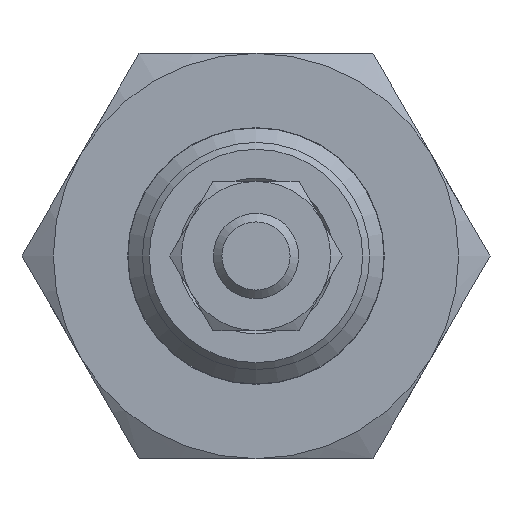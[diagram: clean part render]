
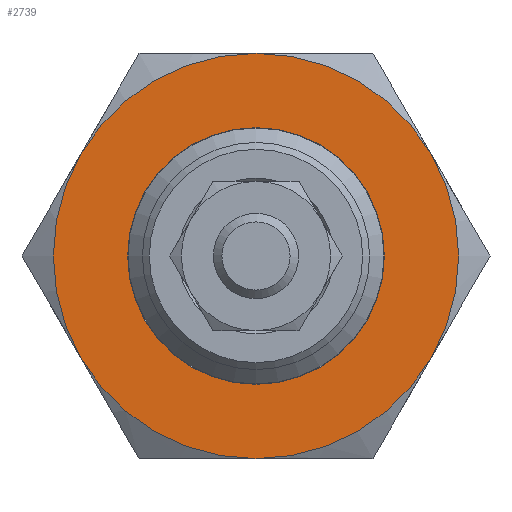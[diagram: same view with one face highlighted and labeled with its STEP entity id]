
A CAD part, front view. The second image highlights one B-rep face of the part: STEP entity #2739.
In plain terms, the highlighted planar face has unit normal (0, -1, 0) as drawn and (1, 0, 0) by its records, which use the part's own axes.
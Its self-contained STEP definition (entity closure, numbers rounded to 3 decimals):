
#154=PLANE('',#3005);
#309=CIRCLE('',#2988,9.5);
#310=CIRCLE('',#2990,9.5);
#311=CIRCLE('',#2992,9.5);
#312=CIRCLE('',#2994,9.5);
#313=CIRCLE('',#2996,9.5);
#314=CIRCLE('',#2998,9.5);
#315=CIRCLE('',#3006,6.016);
#673=ORIENTED_EDGE('',*,*,#951,.T.);
#674=ORIENTED_EDGE('',*,*,#949,.T.);
#675=ORIENTED_EDGE('',*,*,#946,.T.);
#676=ORIENTED_EDGE('',*,*,#945,.T.);
#677=ORIENTED_EDGE('',*,*,#947,.T.);
#678=ORIENTED_EDGE('',*,*,#948,.T.);
#679=ORIENTED_EDGE('',*,*,#950,.T.);
#945=EDGE_CURVE('',#1125,#1132,#309,.T.);
#946=EDGE_CURVE('',#1122,#1125,#310,.T.);
#947=EDGE_CURVE('',#1132,#1130,#311,.T.);
#948=EDGE_CURVE('',#1130,#1127,#312,.T.);
#949=EDGE_CURVE('',#1117,#1122,#313,.T.);
#950=EDGE_CURVE('',#1127,#1117,#314,.T.);
#951=EDGE_CURVE('',#1133,#1133,#315,.F.);
#1117=VERTEX_POINT('',#4001);
#1122=VERTEX_POINT('',#4021);
#1125=VERTEX_POINT('',#4038);
#1127=VERTEX_POINT('',#4056);
#1130=VERTEX_POINT('',#4073);
#1132=VERTEX_POINT('',#4089);
#1133=VERTEX_POINT('',#4113);
#1434=EDGE_LOOP('',(#673));
#1435=EDGE_LOOP('',(#674,#675,#676,#677,#678,#679));
#1644=FACE_BOUND('',#1434,.T.);
#1645=FACE_BOUND('',#1435,.T.);
#2739=ADVANCED_FACE('',(#1644,#1645),#154,.T.);
#2988=AXIS2_PLACEMENT_3D('',#4094,#3487,#3488);
#2990=AXIS2_PLACEMENT_3D('',#4096,#3491,#3492);
#2992=AXIS2_PLACEMENT_3D('',#4098,#3495,#3496);
#2994=AXIS2_PLACEMENT_3D('',#4100,#3499,#3500);
#2996=AXIS2_PLACEMENT_3D('',#4102,#3503,#3504);
#2998=AXIS2_PLACEMENT_3D('',#4104,#3507,#3508);
#3005=AXIS2_PLACEMENT_3D('',#4111,#3521,#3522);
#3006=AXIS2_PLACEMENT_3D('',#4112,#3523,#3524);
#3487=DIRECTION('',(1.,0.,0.));
#3488=DIRECTION('',(0.,1.,0.));
#3491=DIRECTION('',(1.,0.,0.));
#3492=DIRECTION('',(0.,1.,0.));
#3495=DIRECTION('',(1.,0.,0.));
#3496=DIRECTION('',(0.,1.,0.));
#3499=DIRECTION('',(1.,0.,0.));
#3500=DIRECTION('',(0.,1.,0.));
#3503=DIRECTION('',(1.,0.,0.));
#3504=DIRECTION('',(0.,1.,0.));
#3507=DIRECTION('',(1.,0.,0.));
#3508=DIRECTION('',(0.,1.,0.));
#3521=DIRECTION('',(1.,0.,0.));
#3522=DIRECTION('',(0.,0.,-1.));
#3523=DIRECTION('',(1.,0.,0.));
#3524=DIRECTION('',(0.,0.,-1.));
#4001=CARTESIAN_POINT('',(7.,-8.227,-4.75));
#4021=CARTESIAN_POINT('',(7.,0.,-9.5));
#4038=CARTESIAN_POINT('',(7.,8.227,-4.75));
#4056=CARTESIAN_POINT('',(7.,-8.227,4.75));
#4073=CARTESIAN_POINT('',(7.,0.,9.5));
#4089=CARTESIAN_POINT('',(7.,8.227,4.75));
#4094=CARTESIAN_POINT('',(7.,0.,0.));
#4096=CARTESIAN_POINT('',(7.,0.,0.));
#4098=CARTESIAN_POINT('',(7.,0.,0.));
#4100=CARTESIAN_POINT('',(7.,0.,0.));
#4102=CARTESIAN_POINT('',(7.,0.,0.));
#4104=CARTESIAN_POINT('',(7.,0.,0.));
#4111=CARTESIAN_POINT('',(7.,0.,0.));
#4112=CARTESIAN_POINT('',(7.,0.,0.));
#4113=CARTESIAN_POINT('',(7.,0.,-6.016));
